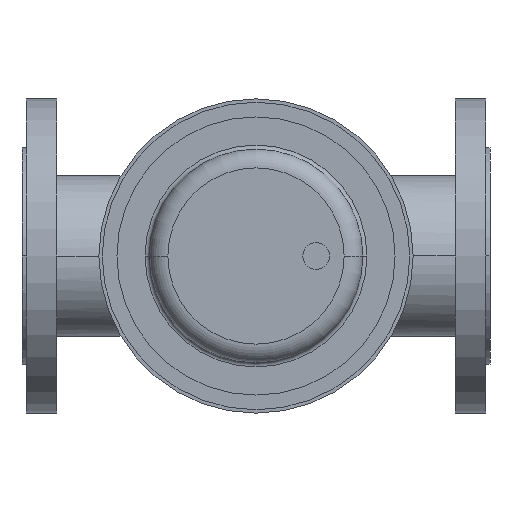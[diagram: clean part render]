
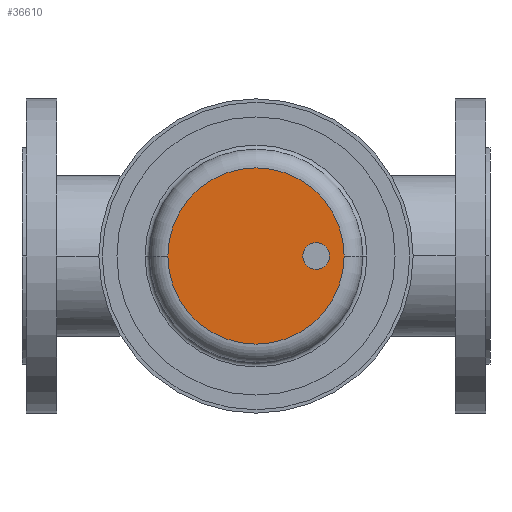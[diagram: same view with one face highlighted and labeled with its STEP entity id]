
A CAD part, front view. The second image highlights one B-rep face of the part: STEP entity #36610.
In plain terms, the highlighted planar face has unit normal (0, -1, 0).
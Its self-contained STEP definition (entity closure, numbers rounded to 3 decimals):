
#36060=CARTESIAN_POINT('',(109.07,-547.,0.));
#36070=VERTEX_POINT('',#36060);
#36100=CARTESIAN_POINT('',(175.,-547.,0.));
#36110=DIRECTION('',(0.,1.,0.));
#36120=DIRECTION('',(1.,0.,0.));
#36130=AXIS2_PLACEMENT_3D('',#36100,#36110,#36120);
#36140=CIRCLE('',#36130,65.93);
#36150=CARTESIAN_POINT('',(175.,-547.,-65.93));
#36160=VERTEX_POINT('',#36150);
#36170=EDGE_CURVE('',#36160,#36070,#36140,.T.);
#36190=CARTESIAN_POINT('',(240.93,-547.,0.));
#36200=VERTEX_POINT('',#36190);
#36210=EDGE_CURVE('',#36200,#36160,#36140,.T.);
#36350=CARTESIAN_POINT('',(207.965,-547.,0.));
#36360=DIRECTION('',(0.,-1.,0.));
#36370=DIRECTION('',(-1.,0.,0.));
#36380=AXIS2_PLACEMENT_3D('',#36350,#36360,#36370);
#36390=PLANE('',#36380);
#36400=CARTESIAN_POINT('',(220.,-547.,0.));
#36410=DIRECTION('',(0.,1.,0.));
#36420=DIRECTION('',(1.,0.,0.));
#36430=AXIS2_PLACEMENT_3D('',#36400,#36410,#36420);
#36440=CIRCLE('',#36430,10.);
#36450=CARTESIAN_POINT('',(230.,-547.,0.));
#36460=VERTEX_POINT('',#36450);
#36470=CARTESIAN_POINT('',(210.,-547.,0.));
#36480=VERTEX_POINT('',#36470);
#36490=EDGE_CURVE('',#36460,#36480,#36440,.T.);
#36500=ORIENTED_EDGE('',*,*,#36490,.T.);
#36510=EDGE_CURVE('',#36480,#36460,#36440,.T.);
#36520=ORIENTED_EDGE('',*,*,#36510,.T.);
#36530=EDGE_LOOP('',(#36520,#36500));
#36540=FACE_BOUND('',#36530,.T.);
#36550=ORIENTED_EDGE('',*,*,#36170,.F.);
#36560=EDGE_CURVE('',#36070,#36200,#36140,.T.);
#36570=ORIENTED_EDGE('',*,*,#36560,.F.);
#36580=ORIENTED_EDGE('',*,*,#36210,.F.);
#36590=EDGE_LOOP('',(#36580,#36570,#36550));
#36600=FACE_OUTER_BOUND('',#36590,.T.);
#36610=ADVANCED_FACE('',(#36540,#36600),#36390,.T.);
